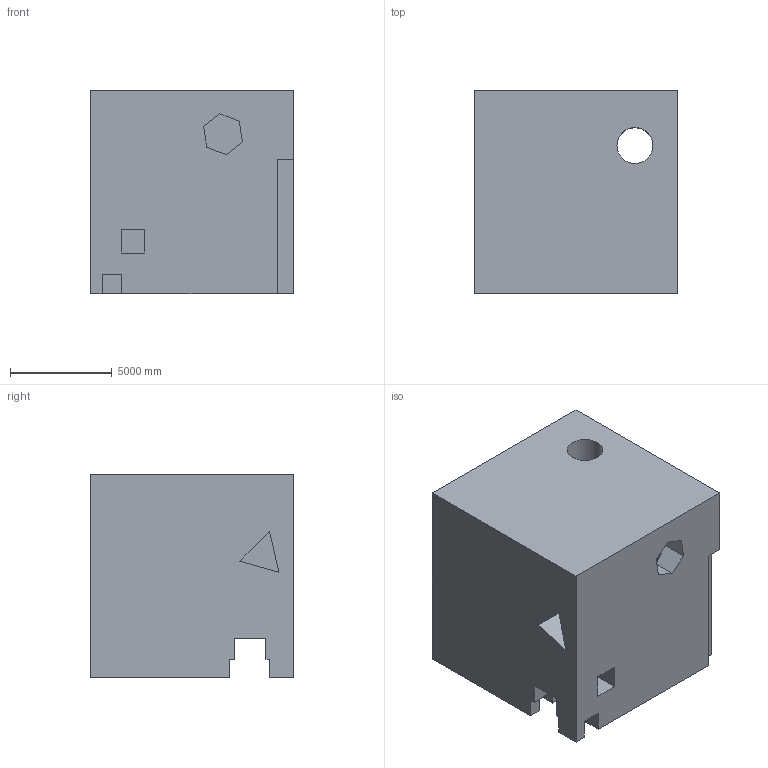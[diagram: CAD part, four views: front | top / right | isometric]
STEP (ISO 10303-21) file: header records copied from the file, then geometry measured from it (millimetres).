
FILE_DESCRIPTION (( 'STEP AP203' ), '1' );
FILE_NAME ('196.STEP', '2022-09-06T15:29:51', ( 'user' ), ( '' ), 'SwSTEP 2.0', 'SolidWorks 2021', '' );
FILE_SCHEMA (( 'CONFIG_CONTROL_DESIGN' ));
Length unit declared in the file: centimetre
Products named in the file (1): 196
Bounding box: 10000 x 10000 x 10000 mm (x, y, z)
Volume: 881914440353.1 mm3; surface area: 842101478.1 mm2
Topology: 1 solids, 1 shells, 57 faces, 159 edges, 106 vertices
Faces by surface type: plane 53, cylinder 4
Entity records: 1890 total; most frequent: CARTESIAN_POINT 323, ORIENTED_EDGE 318, DIRECTION 287, EDGE_CURVE 159, VECTOR 147, LINE 147, VERTEX_POINT 106, AXIS2_PLACEMENT_3D 70
